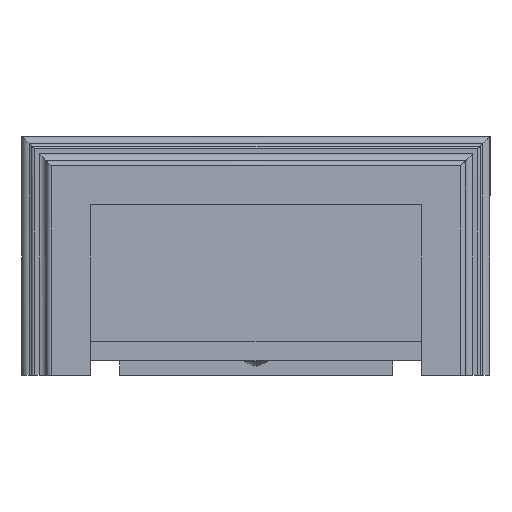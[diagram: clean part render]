
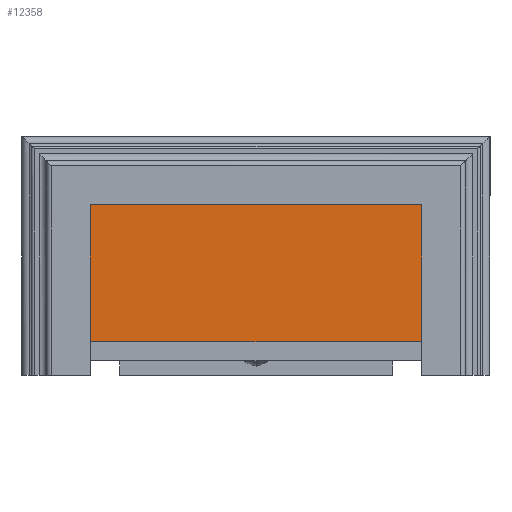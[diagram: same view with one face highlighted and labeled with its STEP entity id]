
A CAD part, front view. The second image highlights one B-rep face of the part: STEP entity #12358.
In plain terms, the highlighted planar face has unit normal (0, -1, 0) as drawn and (0, 0, -1) by its records, which use the part's own axes.
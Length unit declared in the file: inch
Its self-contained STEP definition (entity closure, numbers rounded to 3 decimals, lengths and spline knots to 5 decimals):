
#2630 = EDGE_LOOP ( 'NONE', ( #18810, #5332, #17406, #32865 ) ) ;
#3453 = EDGE_CURVE ( 'NONE', #12702, #38869, #21457, .T. ) ;
#5332 = ORIENTED_EDGE ( 'NONE', *, *, #27947, .F. ) ;
#6465 = DIRECTION ( 'NONE',  ( 0., 1., 0. ) ) ;
#8692 = EDGE_CURVE ( 'NONE', #42335, #16980, #11118, .T. ) ;
#9286 = CARTESIAN_POINT ( 'NONE',  ( -4.625, 1.815, 0. ) ) ;
#11118 = LINE ( 'NONE', #32511, #34217 ) ;
#12358 = ADVANCED_FACE ( 'NONE', ( #40640 ), #35655, .F. ) ;
#12702 = VERTEX_POINT ( 'NONE', #46872 ) ;
#13563 = DIRECTION ( 'NONE',  ( 0., -1., 0. ) ) ;
#16607 = CARTESIAN_POINT ( 'NONE',  ( -4.625, -1.815, 0. ) ) ;
#16980 = VERTEX_POINT ( 'NONE', #32988 ) ;
#17406 = ORIENTED_EDGE ( 'NONE', *, *, #8692, .F. ) ;
#18372 = DIRECTION ( 'NONE',  ( 1., 0., 0. ) ) ;
#18810 = ORIENTED_EDGE ( 'NONE', *, *, #3453, .F. ) ;
#19439 = VECTOR ( 'NONE', #13563, 39.37008 ) ;
#20292 = CARTESIAN_POINT ( 'NONE',  ( 4.625, -1.815, 0. ) ) ;
#20571 = LINE ( 'NONE', #9286, #21948 ) ;
#21457 = LINE ( 'NONE', #44022, #19439 ) ;
#21948 = VECTOR ( 'NONE', #43921, 39.37008 ) ;
#22083 = CARTESIAN_POINT ( 'NONE',  ( -4.625, -1.815, 0. ) ) ;
#27947 = EDGE_CURVE ( 'NONE', #16980, #12702, #20571, .T. ) ;
#32511 = CARTESIAN_POINT ( 'NONE',  ( 4.625, 1.815, 0. ) ) ;
#32865 = ORIENTED_EDGE ( 'NONE', *, *, #49424, .F. ) ;
#32988 = CARTESIAN_POINT ( 'NONE',  ( 4.625, 1.815, 0. ) ) ;
#33115 = LINE ( 'NONE', #22083, #43351 ) ;
#34217 = VECTOR ( 'NONE', #6465, 39.37008 ) ;
#35172 = DIRECTION ( 'NONE',  ( 1., 0., 0. ) ) ;
#35655 = PLANE ( 'NONE',  #39240 ) ;
#38869 = VERTEX_POINT ( 'NONE', #16607 ) ;
#39240 = AXIS2_PLACEMENT_3D ( 'NONE', #40051, #44436, #18372 ) ;
#40051 = CARTESIAN_POINT ( 'NONE',  ( -4.625, -1.815, 0. ) ) ;
#40640 = FACE_OUTER_BOUND ( 'NONE', #2630, .T. ) ;
#42335 = VERTEX_POINT ( 'NONE', #20292 ) ;
#43351 = VECTOR ( 'NONE', #35172, 39.37008 ) ;
#43921 = DIRECTION ( 'NONE',  ( -1., 0., 0. ) ) ;
#44022 = CARTESIAN_POINT ( 'NONE',  ( -4.625, 1.815, 0. ) ) ;
#44436 = DIRECTION ( 'NONE',  ( 0., 0., 1. ) ) ;
#46872 = CARTESIAN_POINT ( 'NONE',  ( -4.625, 1.815, 0. ) ) ;
#49424 = EDGE_CURVE ( 'NONE', #38869, #42335, #33115, .T. ) ;
